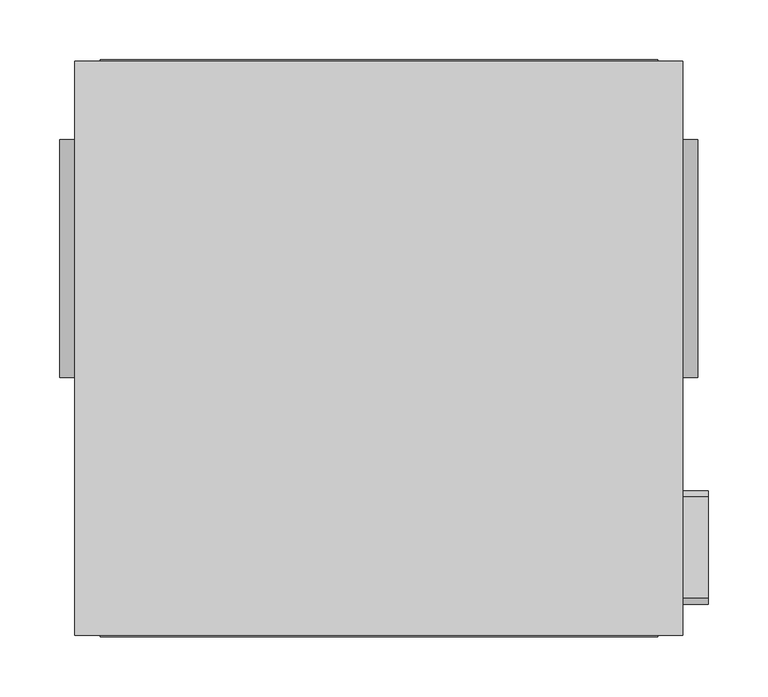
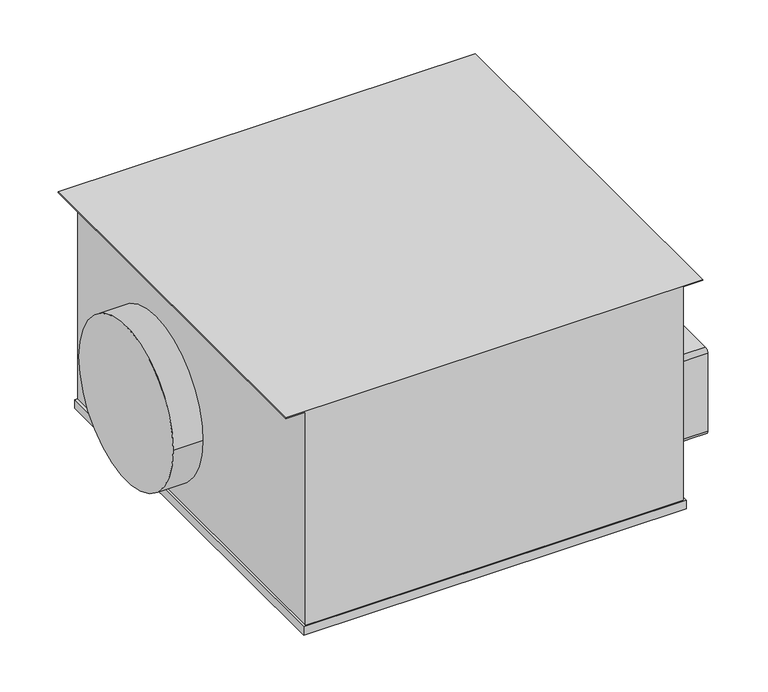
"""IFC4 building model written with IfcOpenShell, lengths in millimetres: unitary equipment geometry, VE-Wentylator-ParaForma-Harmann-ECOBOX_EC-Nawiewny : 200/900EC."""

from ifc_helpers import new_model, si_unit, point, frame, frame_2d, origin, origin_2d, place, context, project, spatial, polyline, circle_curve, trimmed, segment, composite_curve, outline, extrude, source, transform, mapped, element, save


def unitary_equipment_fcf8ed81(model_context):
    return source(origin(), model_context, "Body", "SweptSolid", [
        extrude(outline(composite_curve([segment(trimmed(circle_curve(frame_2d((-284.1, -50.0)), 5.0), [point((-284.1, -55.0))], [point((-289.1, -50.0))], False, "CARTESIAN"), True, "CONTINUOUS"), segment(polyline([(-289.1, -50.0), (-289.1, 50.0)]), True, "CONTINUOUS"), segment(trimmed(circle_curve(frame_2d((-284.1, 50.0)), 5.0), [point((-289.1, 50.0))], [point((-284.1, 55.0))], False, "CARTESIAN"), True, "CONTINUOUS"), segment(polyline([(-284.1, 55.0), (-199.1, 55.0)]), True, "CONTINUOUS"), segment(trimmed(circle_curve(frame_2d((-199.1, 50.0)), 5.0), [point((-199.1, 55.0))], [point((-194.1, 50.0))], False, "CARTESIAN"), True, "CONTINUOUS"), segment(polyline([(-194.1, 50.0), (-194.1, -50.0)]), True, "CONTINUOUS"), segment(trimmed(circle_curve(frame_2d((-199.1, -50.0)), 5.0), [point((-194.1, -50.0))], [point((-199.1, -55.0))], False, "CARTESIAN"), True, "CONTINUOUS"), segment(polyline([(-199.1, -55.0), (-284.1, -55.0)]), True, "CONTINUOUS")], self_intersect=False)), frame((230.0, 0.0, 0.0), z_axis=(1.0, 0.0, 0.0), x_axis=(0.0, 1.0, 0.0)), (0.0, 0.0, 1.0), 45.0),
        extrude(outline(polyline([(-232.9, -316.1), (-232.9, 166.1), (232.9, 166.1), (232.9, -316.1), (-232.9, -316.1)])), frame((0.0, 0.0, -118.8), z_axis=(0.0, 0.0, 1.0), x_axis=(1.0, 0.0, 0.0)), (0.0, 0.0, 1.0), 10.9),
        extrude(outline(polyline([(168.0, -254.0), (167.0, -254.0), (167.0, -230.0), (-107.9, -230.0), (-107.9, 230.0), (167.0, 230.0), (167.0, 254.0), (168.0, 254.0), (168.0, -254.0)])), frame((0.0, -315.0, 0.0), z_axis=(0.0, 1.0, 0.0), x_axis=(0.0, 0.0, 1.0)), (0.0, 0.0, 1.0), 480.0),
        extrude(outline(composite_curve([segment(trimmed(circle_curve(origin_2d(), 99.5), [point((-99.5, 0.0))], [point((99.5, 0.0))], False, "CARTESIAN"), True, "CONTINUOUS"), segment(trimmed(circle_curve(origin_2d(), 99.5), [point((99.5, 0.0))], [point((-99.5, 0.0))], False, "CARTESIAN"), True, "CONTINUOUS")], self_intersect=False)), frame((230.0, 0.0, 0.0), z_axis=(1.0, 0.0, 0.0), x_axis=(0.0, 1.0, 0.0)), (0.0, 0.0, 1.0), 36.5),
        extrude(outline(composite_curve([segment(trimmed(circle_curve(origin_2d(), 99.5), [point((-99.5, 0.0))], [point((99.5, 0.0))], False, "CARTESIAN"), True, "CONTINUOUS"), segment(trimmed(circle_curve(origin_2d(), 99.5), [point((99.5, 0.0))], [point((-99.5, 0.0))], False, "CARTESIAN"), True, "CONTINUOUS")], self_intersect=False)), frame((-266.5, 0.0, 0.0), z_axis=(1.0, 0.0, 0.0), x_axis=(0.0, 1.0, 0.0)), (0.0, 0.0, 1.0), 36.5),
    ])


if __name__ == "__main__":
    model = new_model("IFC4")
    model_context = context("Model", 3, world=origin())
    ifc_project = project(units=[si_unit("LENGTHUNIT", "METRE", prefix="MILLI")], contexts=[model_context])
    site = spatial("IfcSite", under=ifc_project)
    building = spatial("IfcBuilding", under=site)
    placement = place(None, origin())
    unitary_equipment_shape = unitary_equipment_fcf8ed81(model_context)
    element("IfcUnitaryEquipment", 1, ObjectType="VE-Wentylator-ParaForma-Harmann-ECOBOX_EC-Nawiewny : 200/900EC", at=placement, inside=building, context=model_context, shape_type="MappedRepresentation", body=[
        mapped(unitary_equipment_shape, transform((0.0, 0.0, 0.0), x_axis=(1.0, 0.0, 0.0), y_axis=(0.0, 1.0, 0.0), z_axis=(0.0, 0.0, 1.0))),
    ])
    save(model, "model.ifc")
